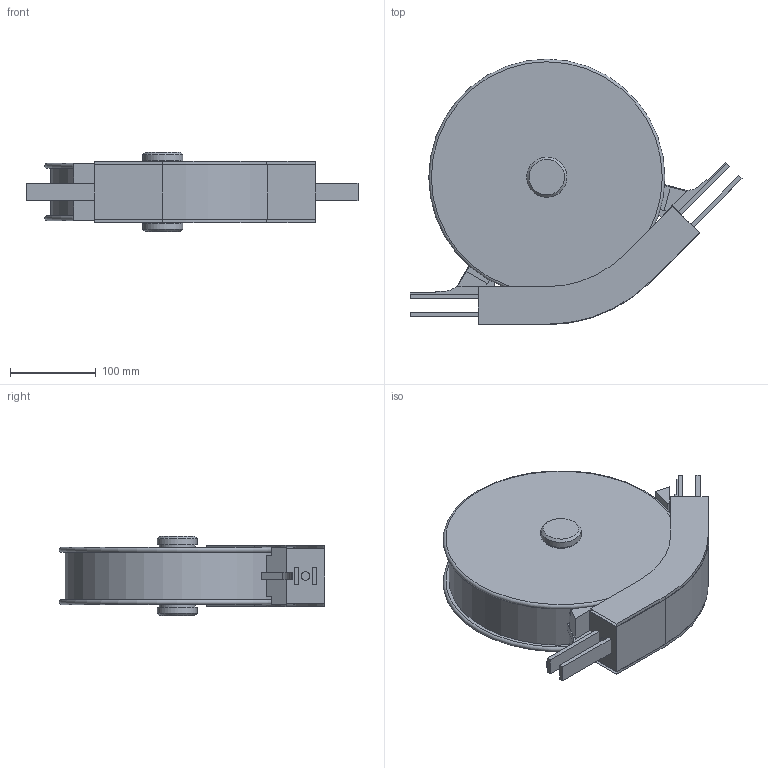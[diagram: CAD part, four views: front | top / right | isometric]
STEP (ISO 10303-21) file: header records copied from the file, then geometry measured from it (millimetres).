
FILE_DESCRIPTION(/* description */ ('Bogenrad 45°'),/* implementation_level */ '2;1');
FILE_NAME(/* name */ 'T:\vdz0\Step Daten Website\modulflex FS-System\Bogenräder\FSBH45R150A_43617.stp',/* time_stamp */ '2024-08-20T15:25:45+02:00',/* author */ ('lzb0'),/* organization */ ('modular automation GmbH'),/* preprocessor_version */ 'ST-DEVELOPER v18.1',/* originating_system */ 'Autodesk Inventor 2021',/* authorisation */ '');
FILE_SCHEMA (('AUTOMOTIVE_DESIGN { 1 0 10303 214 3 1 1 }'));
Length unit declared in the file: millimetre
Products named in the file (1): FSBH 45R150 A
Bounding box: 388.22 x 310.5 x 93 mm (x, y, z)
Volume: 4662567 mm3; surface area: 361263.5 mm2
Topology: 8 solids, 12 shells, 123 faces, 289 edges, 192 vertices
Faces by surface type: plane 104, cylinder 15, cone 2, torus 2
Full cylindrical faces by diameter (mm): 10 x2, 42 x2, 47 x2, 262 x1
Entity records: 3554 total; most frequent: CARTESIAN_POINT 605, DIRECTION 575, ORIENTED_EDGE 558, EDGE_CURVE 289, LINE 251, VECTOR 251, VERTEX_POINT 192, AXIS2_PLACEMENT_3D 162
